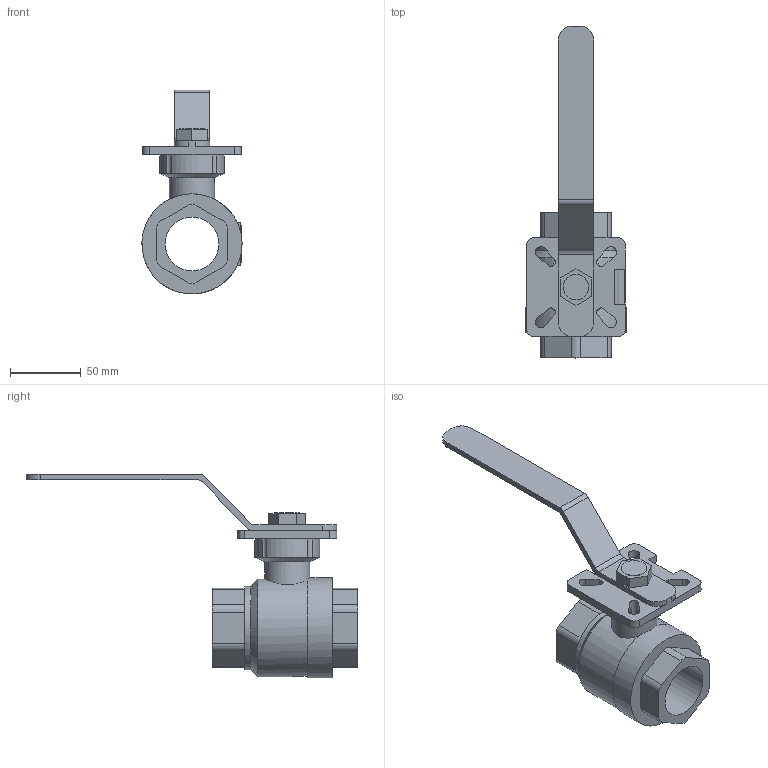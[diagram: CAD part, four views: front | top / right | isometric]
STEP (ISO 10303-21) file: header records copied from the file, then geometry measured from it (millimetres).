
FILE_DESCRIPTION(('STEP AP203'), '1');
FILE_NAME('3D_7015-040-63', '', ('UNSPECIFIED'), ('UNSPECIFIED'), 'C3D Converter', 'C3D Toolkit', '');
FILE_SCHEMA(('CONFIG_CONTROL_DESIGN'));
Length unit declared in the file: millimetre
Bounding box: 70.99 x 235 x 144.44 mm (x, y, z)
Volume: 298765.2 mm3; surface area: 66705.5 mm2
Topology: 11 solids, 11 shells, 939 faces, 2747 edges, 1830 vertices
Faces by surface type: plane 895, cylinder 42, cone 2
Full cylindrical faces by diameter (mm): 18 x1, 32 x1, 38 x1, 59 x1, 69 x1, 71 x1
Entity records: 38495 total; most frequent: CARTESIAN_POINT 5845, ORIENTED_EDGE 5478, DIRECTION 4721, EDGE_CURVE 2739, LINE 2631, VECTOR 2631, VERTEX_POINT 1830, AXIS2_PLACEMENT_3D 1045
